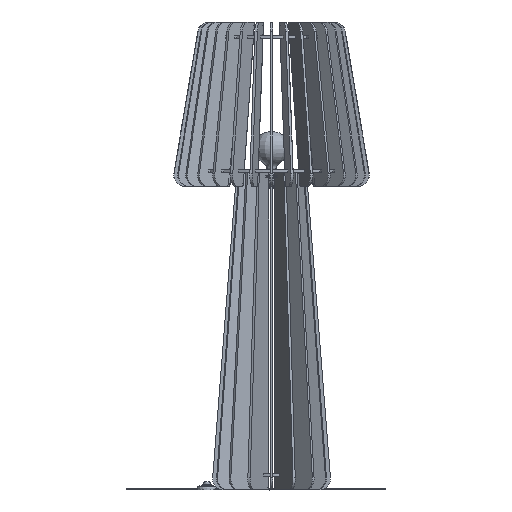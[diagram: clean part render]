
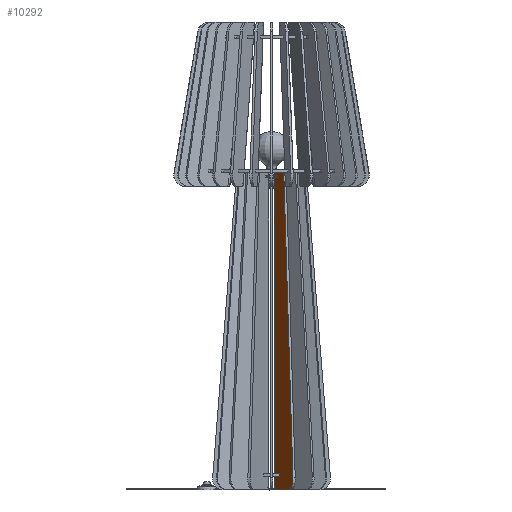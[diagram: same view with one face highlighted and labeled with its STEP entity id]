
A CAD part, left-side view. The second image highlights one B-rep face of the part: STEP entity #10292.
In plain terms, the highlighted planar face has unit normal (-0.383, 0.924, 0) as drawn and (-0.707, 0.707, 0) by its records, which use the part's own axes.
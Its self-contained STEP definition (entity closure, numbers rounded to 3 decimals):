
#440=CIRCLE('',#11127,40.);
#443=CIRCLE('',#11134,10.);
#1441=FACE_OUTER_BOUND('',#2036,.T.);
#2036=EDGE_LOOP('',(#9374,#9375,#9376,#9377,#9378,#9379,#9380,#9381,#9382,
#9383,#9384,#9385,#9386,#9387,#9388,#9389,#9390));
#3073=LINE('',#22166,#4139);
#3087=LINE('',#22197,#4153);
#3089=LINE('',#22201,#4155);
#3091=LINE('',#22207,#4157);
#3093=LINE('',#22211,#4159);
#3094=LINE('',#22213,#4160);
#3095=LINE('',#22215,#4161);
#3096=LINE('',#22217,#4162);
#3097=LINE('',#22219,#4163);
#3098=LINE('',#22221,#4164);
#3099=LINE('',#22223,#4165);
#3100=LINE('',#22225,#4166);
#3101=LINE('',#22227,#4167);
#3102=LINE('',#22229,#4168);
#3103=LINE('',#22230,#4169);
#4139=VECTOR('',#13501,10.);
#4153=VECTOR('',#13521,10.);
#4155=VECTOR('',#13525,10.);
#4157=VECTOR('',#13531,10.);
#4159=VECTOR('',#13535,10.);
#4160=VECTOR('',#13536,10.);
#4161=VECTOR('',#13537,10.);
#4162=VECTOR('',#13538,10.);
#4163=VECTOR('',#13539,10.);
#4164=VECTOR('',#13540,10.);
#4165=VECTOR('',#13541,10.);
#4166=VECTOR('',#13542,10.);
#4167=VECTOR('',#13543,10.);
#4168=VECTOR('',#13544,10.);
#4169=VECTOR('',#13545,10.);
#5098=VERTEX_POINT('',#22153);
#5099=VERTEX_POINT('',#22154);
#5103=VERTEX_POINT('',#22164);
#5117=VERTEX_POINT('',#22196);
#5118=VERTEX_POINT('',#22200);
#5119=VERTEX_POINT('',#22202);
#5120=VERTEX_POINT('',#22206);
#5121=VERTEX_POINT('',#22210);
#5122=VERTEX_POINT('',#22212);
#5123=VERTEX_POINT('',#22214);
#5124=VERTEX_POINT('',#22216);
#5125=VERTEX_POINT('',#22218);
#5126=VERTEX_POINT('',#22220);
#5127=VERTEX_POINT('',#22222);
#5128=VERTEX_POINT('',#22224);
#5129=VERTEX_POINT('',#22226);
#5130=VERTEX_POINT('',#22228);
#6517=EDGE_CURVE('',#5098,#5099,#440,.T.);
#6523=EDGE_CURVE('',#5103,#5098,#3073,.T.);
#6538=EDGE_CURVE('',#5099,#5117,#3087,.T.);
#6540=EDGE_CURVE('',#5118,#5117,#3089,.T.);
#6541=EDGE_CURVE('',#5118,#5119,#443,.T.);
#6543=EDGE_CURVE('',#5119,#5120,#3091,.T.);
#6545=EDGE_CURVE('',#5121,#5103,#3093,.T.);
#6546=EDGE_CURVE('',#5122,#5121,#3094,.T.);
#6547=EDGE_CURVE('',#5123,#5122,#3095,.T.);
#6548=EDGE_CURVE('',#5124,#5123,#3096,.T.);
#6549=EDGE_CURVE('',#5125,#5124,#3097,.T.);
#6550=EDGE_CURVE('',#5126,#5125,#3098,.T.);
#6551=EDGE_CURVE('',#5127,#5126,#3099,.T.);
#6552=EDGE_CURVE('',#5128,#5127,#3100,.T.);
#6553=EDGE_CURVE('',#5129,#5128,#3101,.T.);
#6554=EDGE_CURVE('',#5130,#5129,#3102,.T.);
#6555=EDGE_CURVE('',#5120,#5130,#3103,.T.);
#9374=ORIENTED_EDGE('',*,*,#6517,.F.);
#9375=ORIENTED_EDGE('',*,*,#6523,.F.);
#9376=ORIENTED_EDGE('',*,*,#6545,.F.);
#9377=ORIENTED_EDGE('',*,*,#6546,.F.);
#9378=ORIENTED_EDGE('',*,*,#6547,.F.);
#9379=ORIENTED_EDGE('',*,*,#6548,.F.);
#9380=ORIENTED_EDGE('',*,*,#6549,.F.);
#9381=ORIENTED_EDGE('',*,*,#6550,.F.);
#9382=ORIENTED_EDGE('',*,*,#6551,.F.);
#9383=ORIENTED_EDGE('',*,*,#6552,.F.);
#9384=ORIENTED_EDGE('',*,*,#6553,.F.);
#9385=ORIENTED_EDGE('',*,*,#6554,.F.);
#9386=ORIENTED_EDGE('',*,*,#6555,.F.);
#9387=ORIENTED_EDGE('',*,*,#6543,.F.);
#9388=ORIENTED_EDGE('',*,*,#6541,.F.);
#9389=ORIENTED_EDGE('',*,*,#6540,.T.);
#9390=ORIENTED_EDGE('',*,*,#6538,.F.);
#9770=PLANE('',#11136);
#10292=ADVANCED_FACE('',(#1441),#9770,.T.);
#11127=AXIS2_PLACEMENT_3D('',#22155,#13491,#13492);
#11134=AXIS2_PLACEMENT_3D('',#22203,#13526,#13527);
#11136=AXIS2_PLACEMENT_3D('',#22209,#13533,#13534);
#13491=DIRECTION('center_axis',(0.707,-0.707,0.));
#13492=DIRECTION('ref_axis',(-0.519,-0.519,-0.679));
#13501=DIRECTION('',(-0.055,-0.055,-0.997));
#13521=DIRECTION('',(0.707,0.707,0.));
#13525=DIRECTION('',(-0.707,-0.707,0.));
#13526=DIRECTION('center_axis',(0.707,-0.707,0.));
#13527=DIRECTION('ref_axis',(0.5,0.5,-0.707));
#13531=DIRECTION('',(0.,0.,1.));
#13533=DIRECTION('center_axis',(-0.707,0.707,0.));
#13534=DIRECTION('ref_axis',(0.,0.,1.));
#13535=DIRECTION('',(-0.707,-0.707,0.));
#13536=DIRECTION('',(0.,0.,-1.));
#13537=DIRECTION('',(-0.707,-0.707,0.));
#13538=DIRECTION('',(0.,0.,1.));
#13539=DIRECTION('',(0.707,0.707,0.));
#13540=DIRECTION('',(0.,0.,1.));
#13541=DIRECTION('',(-0.707,-0.707,0.));
#13542=DIRECTION('',(0.,0.,1.));
#13543=DIRECTION('',(0.707,0.707,0.));
#13544=DIRECTION('',(0.,0.,1.));
#13545=DIRECTION('',(-0.707,-0.707,0.));
#22153=CARTESIAN_POINT('',(-152.709,-146.345,43.123));
#22154=CARTESIAN_POINT('',(-124.511,-118.147,0.002));
#22155=CARTESIAN_POINT('Origin',(-124.511,-118.147,40.002));
#22164=CARTESIAN_POINT('',(-91.954,-85.59,1141.001));
#22166=CARTESIAN_POINT('',(-91.954,-85.59,1141.001));
#22196=CARTESIAN_POINT('',(-34.888,-28.524,0.002));
#22197=CARTESIAN_POINT('',(-155.096,-148.732,0.002));
#22200=CARTESIAN_POINT('',(-34.878,-28.514,0.002));
#22201=CARTESIAN_POINT('',(-59.636,-53.272,0.002));
#22202=CARTESIAN_POINT('',(-27.816,-21.452,10.002));
#22203=CARTESIAN_POINT('Origin',(-34.888,-28.524,10.002));
#22206=CARTESIAN_POINT('',(-27.816,-21.452,50.002));
#22207=CARTESIAN_POINT('',(-27.816,-21.452,0.002));
#22209=CARTESIAN_POINT('Origin',(-27.816,-21.452,50.002));
#22210=CARTESIAN_POINT('',(-59.636,-53.272,1141.001));
#22211=CARTESIAN_POINT('',(-59.636,-53.272,1141.001));
#22212=CARTESIAN_POINT('',(-59.636,-53.272,1150.002));
#22213=CARTESIAN_POINT('',(-59.636,-53.272,1150.002));
#22214=CARTESIAN_POINT('',(-27.816,-21.452,1150.002));
#22215=CARTESIAN_POINT('',(-27.816,-21.452,1150.002));
#22216=CARTESIAN_POINT('',(-27.816,-21.452,1130.002));
#22217=CARTESIAN_POINT('',(-27.816,-21.452,1130.002));
#22218=CARTESIAN_POINT('',(-45.494,-39.13,1130.002));
#22219=CARTESIAN_POINT('',(-45.494,-39.13,1130.002));
#22220=CARTESIAN_POINT('',(-45.494,-39.13,1121.002));
#22221=CARTESIAN_POINT('',(-45.494,-39.13,1121.002));
#22222=CARTESIAN_POINT('',(-27.816,-21.452,1121.002));
#22223=CARTESIAN_POINT('',(-27.816,-21.452,1121.002));
#22224=CARTESIAN_POINT('',(-27.816,-21.452,59.002));
#22225=CARTESIAN_POINT('',(-27.816,-21.452,59.002));
#22226=CARTESIAN_POINT('',(-45.494,-39.13,59.002));
#22227=CARTESIAN_POINT('',(-45.494,-39.13,59.002));
#22228=CARTESIAN_POINT('',(-45.494,-39.13,50.002));
#22229=CARTESIAN_POINT('',(-45.494,-39.13,50.002));
#22230=CARTESIAN_POINT('',(-27.816,-21.452,50.002));
